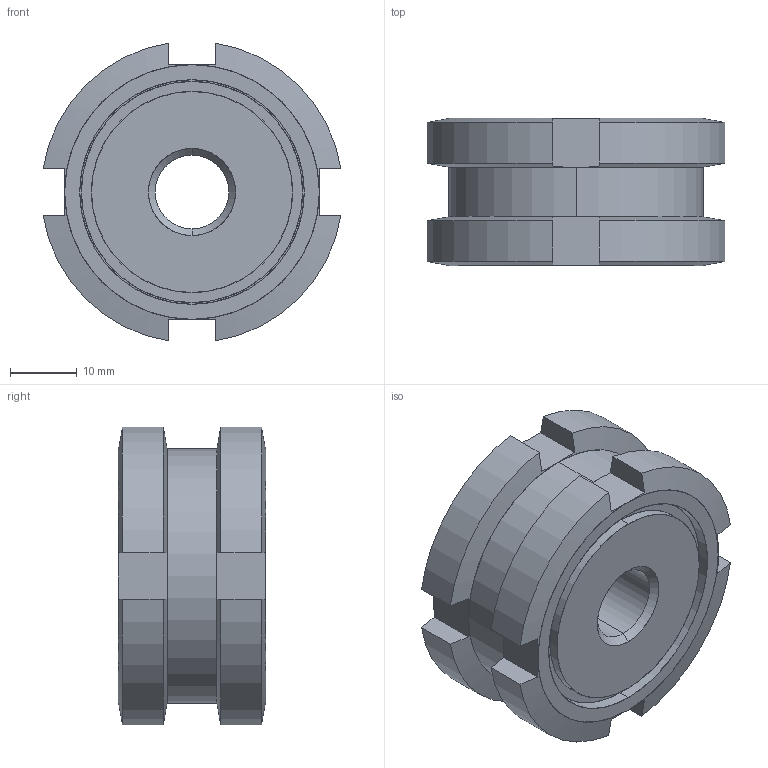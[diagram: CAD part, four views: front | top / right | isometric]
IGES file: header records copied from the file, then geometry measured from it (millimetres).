
Start section: SolidWorks IGES file using analytic representation for surfaces
Global section: file name: C:\Documents and Settings\IanO.IANOHOME\My Documents\Wix and Auto CAD Work\CAD Models\Parametric Models\Wix Models\6200\6200_IGES\6200.W070.igs; native system: SolidWorks 2009; preprocessor: SolidWorks 2009; author: IanO; date: 101017.134245; units: millimetre
Bounding box: 44.45 x 22 x 44.45 mm (x, y, z)
Surface area: 11315.7 mm2 (no closed solid volume)
Topology: 0 solids, 0 shells, 74 faces, 1306 edges, 1306 vertices
Faces by surface type: revolution 42, bspline 32
